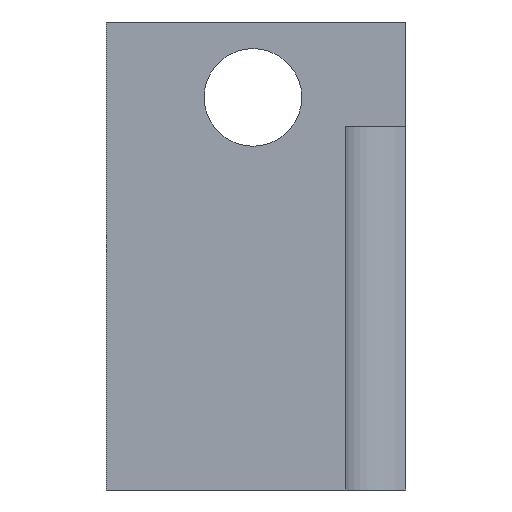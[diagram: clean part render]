
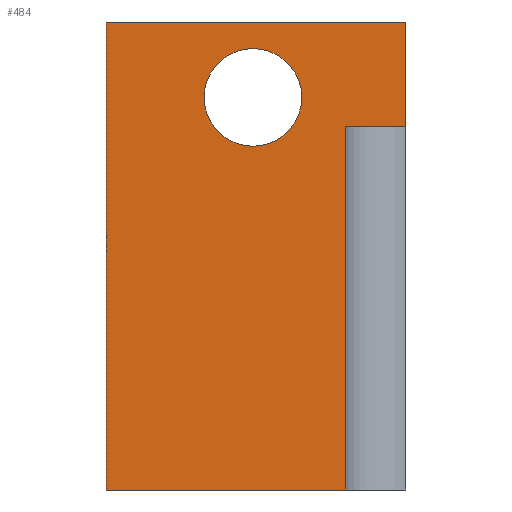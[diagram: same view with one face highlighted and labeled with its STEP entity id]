
A CAD part, left-side view. The second image highlights one B-rep face of the part: STEP entity #484.
In plain terms, the highlighted planar face has unit normal (-1, 0, 0).
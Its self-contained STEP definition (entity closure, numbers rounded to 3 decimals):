
#22 = VERTEX_POINT('',#23);
#23 = CARTESIAN_POINT('',(0.,28.213,44.106));
#32 = PLANE('',#33);
#33 = AXIS2_PLACEMENT_3D('',#34,#35,#36);
#34 = CARTESIAN_POINT('',(0.,0.,44.106));
#35 = DIRECTION('',(0.,0.,1.));
#36 = DIRECTION('',(1.,0.,-0.));
#44 = PLANE('',#45);
#45 = AXIS2_PLACEMENT_3D('',#46,#47,#48);
#46 = CARTESIAN_POINT('',(0.,28.213,0.));
#47 = DIRECTION('',(-0.,1.,0.));
#48 = DIRECTION('',(0.,0.,1.));
#56 = EDGE_CURVE('',#57,#22,#59,.T.);
#57 = VERTEX_POINT('',#58);
#58 = CARTESIAN_POINT('',(0.,0.,44.106));
#59 = SURFACE_CURVE('',#60,(#64,#71),.PCURVE_S1.);
#60 = LINE('',#61,#62);
#61 = CARTESIAN_POINT('',(0.,0.,44.106));
#62 = VECTOR('',#63,1.);
#63 = DIRECTION('',(-0.,1.,0.));
#64 = PCURVE('',#32,#65);
#65 = DEFINITIONAL_REPRESENTATION('',(#66),#70);
#66 = LINE('',#67,#68);
#67 = CARTESIAN_POINT('',(0.,0.));
#68 = VECTOR('',#69,1.);
#69 = DIRECTION('',(0.,1.));
#70 = ( GEOMETRIC_REPRESENTATION_CONTEXT(2) 
PARAMETRIC_REPRESENTATION_CONTEXT() REPRESENTATION_CONTEXT('2D SPACE',''
  ) );
#71 = PCURVE('',#72,#77);
#72 = PLANE('',#73);
#73 = AXIS2_PLACEMENT_3D('',#74,#75,#76);
#74 = CARTESIAN_POINT('',(0.,0.,0.));
#75 = DIRECTION('',(1.,0.,-0.));
#76 = DIRECTION('',(0.,0.,1.));
#77 = DEFINITIONAL_REPRESENTATION('',(#78),#82);
#78 = LINE('',#79,#80);
#79 = CARTESIAN_POINT('',(44.106,0.));
#80 = VECTOR('',#81,1.);
#81 = DIRECTION('',(0.,-1.));
#82 = ( GEOMETRIC_REPRESENTATION_CONTEXT(2) 
PARAMETRIC_REPRESENTATION_CONTEXT() REPRESENTATION_CONTEXT('2D SPACE',''
  ) );
#100 = PLANE('',#101);
#101 = AXIS2_PLACEMENT_3D('',#102,#103,#104);
#102 = CARTESIAN_POINT('',(0.,0.,0.));
#103 = DIRECTION('',(-0.,1.,0.));
#104 = DIRECTION('',(0.,0.,1.));
#335 = VERTEX_POINT('',#336);
#336 = CARTESIAN_POINT('',(0.,28.213,0.));
#350 = PLANE('',#351);
#351 = AXIS2_PLACEMENT_3D('',#352,#353,#354);
#352 = CARTESIAN_POINT('',(0.,0.,0.));
#353 = DIRECTION('',(0.,0.,1.));
#354 = DIRECTION('',(1.,0.,-0.));
#362 = EDGE_CURVE('',#335,#22,#363,.T.);
#363 = SURFACE_CURVE('',#364,(#368,#375),.PCURVE_S1.);
#364 = LINE('',#365,#366);
#365 = CARTESIAN_POINT('',(0.,28.213,0.));
#366 = VECTOR('',#367,1.);
#367 = DIRECTION('',(0.,0.,1.));
#368 = PCURVE('',#44,#369);
#369 = DEFINITIONAL_REPRESENTATION('',(#370),#374);
#370 = LINE('',#371,#372);
#371 = CARTESIAN_POINT('',(0.,0.));
#372 = VECTOR('',#373,1.);
#373 = DIRECTION('',(1.,0.));
#374 = ( GEOMETRIC_REPRESENTATION_CONTEXT(2) 
PARAMETRIC_REPRESENTATION_CONTEXT() REPRESENTATION_CONTEXT('2D SPACE',''
  ) );
#375 = PCURVE('',#72,#376);
#376 = DEFINITIONAL_REPRESENTATION('',(#377),#381);
#377 = LINE('',#378,#379);
#378 = CARTESIAN_POINT('',(0.,-28.213));
#379 = VECTOR('',#380,1.);
#380 = DIRECTION('',(1.,0.));
#381 = ( GEOMETRIC_REPRESENTATION_CONTEXT(2) 
PARAMETRIC_REPRESENTATION_CONTEXT() REPRESENTATION_CONTEXT('2D SPACE',''
  ) );
#484 = ADVANCED_FACE('f003',(#485,#589),#72,.F.);
#485 = FACE_BOUND('',#486,.F.);
#486 = EDGE_LOOP('',(#487,#510,#538,#566,#587,#588));
#487 = ORIENTED_EDGE('',*,*,#488,.F.);
#488 = EDGE_CURVE('',#489,#57,#491,.T.);
#489 = VERTEX_POINT('',#490);
#490 = CARTESIAN_POINT('',(0.,0.,34.295));
#491 = SURFACE_CURVE('',#492,(#496,#503),.PCURVE_S1.);
#492 = LINE('',#493,#494);
#493 = CARTESIAN_POINT('',(0.,0.,0.));
#494 = VECTOR('',#495,1.);
#495 = DIRECTION('',(0.,0.,1.));
#496 = PCURVE('',#72,#497);
#497 = DEFINITIONAL_REPRESENTATION('',(#498),#502);
#498 = LINE('',#499,#500);
#499 = CARTESIAN_POINT('',(0.,0.));
#500 = VECTOR('',#501,1.);
#501 = DIRECTION('',(1.,0.));
#502 = ( GEOMETRIC_REPRESENTATION_CONTEXT(2) 
PARAMETRIC_REPRESENTATION_CONTEXT() REPRESENTATION_CONTEXT('2D SPACE',''
  ) );
#503 = PCURVE('',#100,#504);
#504 = DEFINITIONAL_REPRESENTATION('',(#505),#509);
#505 = LINE('',#506,#507);
#506 = CARTESIAN_POINT('',(0.,0.));
#507 = VECTOR('',#508,1.);
#508 = DIRECTION('',(1.,0.));
#509 = ( GEOMETRIC_REPRESENTATION_CONTEXT(2) 
PARAMETRIC_REPRESENTATION_CONTEXT() REPRESENTATION_CONTEXT('2D SPACE',''
  ) );
#510 = ORIENTED_EDGE('',*,*,#511,.T.);
#511 = EDGE_CURVE('',#489,#512,#514,.T.);
#512 = VERTEX_POINT('',#513);
#513 = CARTESIAN_POINT('',(0.,5.666,
    34.295));
#514 = SURFACE_CURVE('',#515,(#519,#526),.PCURVE_S1.);
#515 = LINE('',#516,#517);
#516 = CARTESIAN_POINT('',(0.,0.,34.295));
#517 = VECTOR('',#518,1.);
#518 = DIRECTION('',(0.,1.,0.));
#519 = PCURVE('',#72,#520);
#520 = DEFINITIONAL_REPRESENTATION('',(#521),#525);
#521 = LINE('',#522,#523);
#522 = CARTESIAN_POINT('',(34.295,0.));
#523 = VECTOR('',#524,1.);
#524 = DIRECTION('',(0.,-1.));
#525 = ( GEOMETRIC_REPRESENTATION_CONTEXT(2) 
PARAMETRIC_REPRESENTATION_CONTEXT() REPRESENTATION_CONTEXT('2D SPACE',''
  ) );
#526 = PCURVE('',#527,#532);
#527 = PLANE('',#528);
#528 = AXIS2_PLACEMENT_3D('',#529,#530,#531);
#529 = CARTESIAN_POINT('',(2.338,2.338,34.295
    ));
#530 = DIRECTION('',(-0.,-0.,-1.));
#531 = DIRECTION('',(-1.,0.,0.));
#532 = DEFINITIONAL_REPRESENTATION('',(#533),#537);
#533 = LINE('',#534,#535);
#534 = CARTESIAN_POINT('',(2.338,-2.338));
#535 = VECTOR('',#536,1.);
#536 = DIRECTION('',(0.,1.));
#537 = ( GEOMETRIC_REPRESENTATION_CONTEXT(2) 
PARAMETRIC_REPRESENTATION_CONTEXT() REPRESENTATION_CONTEXT('2D SPACE',''
  ) );
#538 = ORIENTED_EDGE('',*,*,#539,.F.);
#539 = EDGE_CURVE('',#540,#512,#542,.T.);
#540 = VERTEX_POINT('',#541);
#541 = CARTESIAN_POINT('',(0.,5.666,0.));
#542 = SURFACE_CURVE('',#543,(#547,#554),.PCURVE_S1.);
#543 = LINE('',#544,#545);
#544 = CARTESIAN_POINT('',(0.,5.666,0.));
#545 = VECTOR('',#546,1.);
#546 = DIRECTION('',(0.,0.,1.));
#547 = PCURVE('',#72,#548);
#548 = DEFINITIONAL_REPRESENTATION('',(#549),#553);
#549 = LINE('',#550,#551);
#550 = CARTESIAN_POINT('',(0.,-5.666));
#551 = VECTOR('',#552,1.);
#552 = DIRECTION('',(1.,0.));
#553 = ( GEOMETRIC_REPRESENTATION_CONTEXT(2) 
PARAMETRIC_REPRESENTATION_CONTEXT() REPRESENTATION_CONTEXT('2D SPACE',''
  ) );
#554 = PCURVE('',#555,#560);
#555 = CYLINDRICAL_SURFACE('',#556,5.666);
#556 = AXIS2_PLACEMENT_3D('',#557,#558,#559);
#557 = CARTESIAN_POINT('',(0.,0.,0.));
#558 = DIRECTION('',(0.,0.,-1.));
#559 = DIRECTION('',(-1.,0.,-0.));
#560 = DEFINITIONAL_REPRESENTATION('',(#561),#565);
#561 = LINE('',#562,#563);
#562 = CARTESIAN_POINT('',(1.571,0.));
#563 = VECTOR('',#564,1.);
#564 = DIRECTION('',(0.,-1.));
#565 = ( GEOMETRIC_REPRESENTATION_CONTEXT(2) 
PARAMETRIC_REPRESENTATION_CONTEXT() REPRESENTATION_CONTEXT('2D SPACE',''
  ) );
#566 = ORIENTED_EDGE('',*,*,#567,.T.);
#567 = EDGE_CURVE('',#540,#335,#568,.T.);
#568 = SURFACE_CURVE('',#569,(#573,#580),.PCURVE_S1.);
#569 = LINE('',#570,#571);
#570 = CARTESIAN_POINT('',(0.,0.,0.));
#571 = VECTOR('',#572,1.);
#572 = DIRECTION('',(-0.,1.,0.));
#573 = PCURVE('',#72,#574);
#574 = DEFINITIONAL_REPRESENTATION('',(#575),#579);
#575 = LINE('',#576,#577);
#576 = CARTESIAN_POINT('',(0.,0.));
#577 = VECTOR('',#578,1.);
#578 = DIRECTION('',(0.,-1.));
#579 = ( GEOMETRIC_REPRESENTATION_CONTEXT(2) 
PARAMETRIC_REPRESENTATION_CONTEXT() REPRESENTATION_CONTEXT('2D SPACE',''
  ) );
#580 = PCURVE('',#350,#581);
#581 = DEFINITIONAL_REPRESENTATION('',(#582),#586);
#582 = LINE('',#583,#584);
#583 = CARTESIAN_POINT('',(0.,0.));
#584 = VECTOR('',#585,1.);
#585 = DIRECTION('',(0.,1.));
#586 = ( GEOMETRIC_REPRESENTATION_CONTEXT(2) 
PARAMETRIC_REPRESENTATION_CONTEXT() REPRESENTATION_CONTEXT('2D SPACE',''
  ) );
#587 = ORIENTED_EDGE('',*,*,#362,.T.);
#588 = ORIENTED_EDGE('',*,*,#56,.F.);
#589 = FACE_BOUND('',#590,.F.);
#590 = EDGE_LOOP('',(#591));
#591 = ORIENTED_EDGE('',*,*,#592,.F.);
#592 = EDGE_CURVE('',#593,#593,#595,.T.);
#593 = VERTEX_POINT('',#594);
#594 = CARTESIAN_POINT('',(0.,14.395,41.601));
#595 = SURFACE_CURVE('',#596,(#601,#608),.PCURVE_S1.);
#596 = CIRCLE('',#597,4.601);
#597 = AXIS2_PLACEMENT_3D('',#598,#599,#600);
#598 = CARTESIAN_POINT('',(0.,14.395,37.));
#599 = DIRECTION('',(1.,0.,0.));
#600 = DIRECTION('',(-0.,0.,1.));
#601 = PCURVE('',#72,#602);
#602 = DEFINITIONAL_REPRESENTATION('',(#603),#607);
#603 = CIRCLE('',#604,4.601);
#604 = AXIS2_PLACEMENT_2D('',#605,#606);
#605 = CARTESIAN_POINT('',(37.,-14.395));
#606 = DIRECTION('',(1.,0.));
#607 = ( GEOMETRIC_REPRESENTATION_CONTEXT(2) 
PARAMETRIC_REPRESENTATION_CONTEXT() REPRESENTATION_CONTEXT('2D SPACE',''
  ) );
#608 = PCURVE('',#609,#614);
#609 = CYLINDRICAL_SURFACE('',#610,4.601);
#610 = AXIS2_PLACEMENT_3D('',#611,#612,#613);
#611 = CARTESIAN_POINT('',(11.504,14.395,
    37.));
#612 = DIRECTION('',(1.,0.,0.));
#613 = DIRECTION('',(-0.,0.,1.));
#614 = DEFINITIONAL_REPRESENTATION('',(#615),#619);
#615 = LINE('',#616,#617);
#616 = CARTESIAN_POINT('',(0.,-11.504));
#617 = VECTOR('',#618,1.);
#618 = DIRECTION('',(1.,0.));
#619 = ( GEOMETRIC_REPRESENTATION_CONTEXT(2) 
PARAMETRIC_REPRESENTATION_CONTEXT() REPRESENTATION_CONTEXT('2D SPACE',''
  ) );
